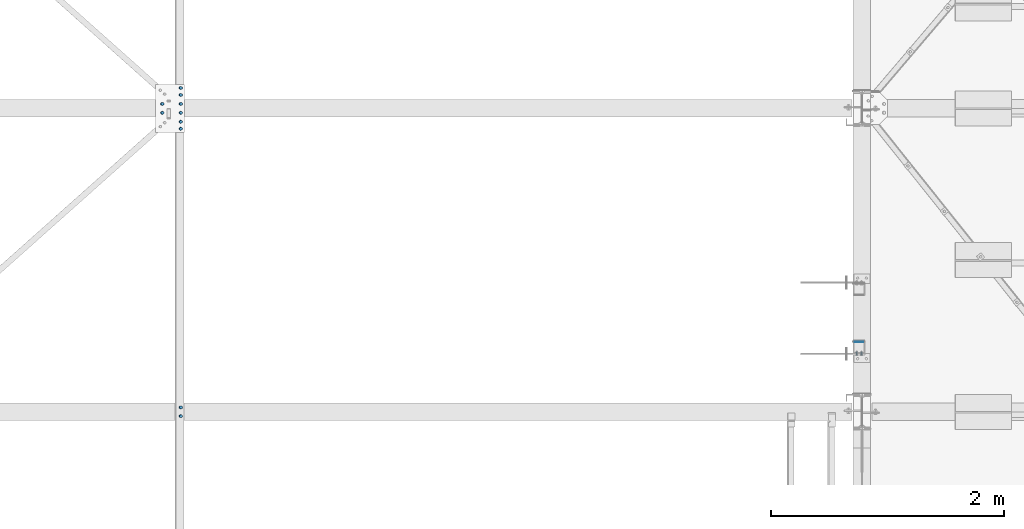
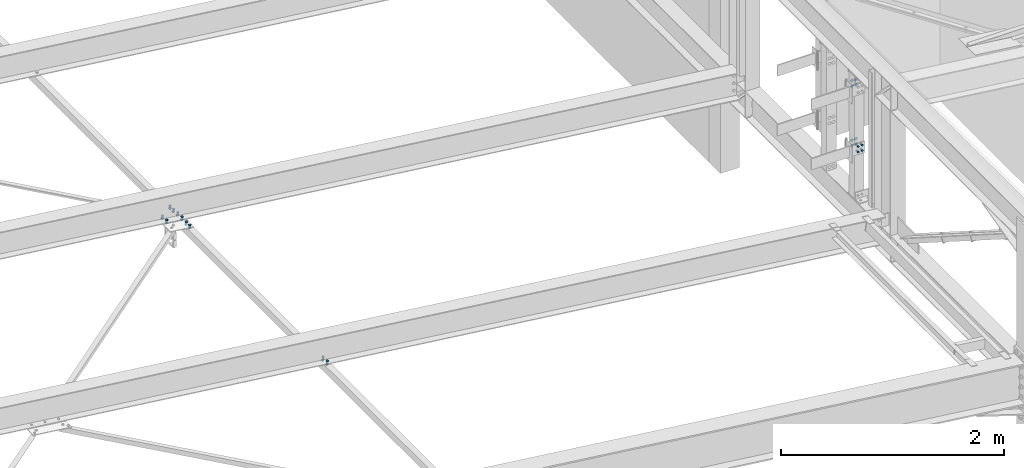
# One storey, part 371 of 3134: 7 mechanical fasteners, 4 elements without a shape of their own.
"""IFC2X3 building model written with IfcOpenShell, lengths in millimetres."""

from ifc_helpers import new_model, si_unit, frame, origin_with_axes, place, context, subcontext, project, spatial, faceted_brep, source, transform, mapped, material, type_object, element, aggregate, save


model = new_model("IFC2X3")

# Units and contexts
model_context = context("Model", 3, precision=1e-05, world=origin_with_axes())
body_context = subcontext(model_context, "Body", "Model", "MODEL_VIEW")
ifc_project = project(units=[si_unit("LENGTHUNIT", "METRE", prefix="MILLI"), si_unit("AREAUNIT", "SQUARE_METRE"), si_unit("VOLUMEUNIT", "CUBIC_METRE"), si_unit("MASSUNIT", "GRAM", prefix="KILO"), si_unit("TIMEUNIT", "SECOND"), si_unit("PLANEANGLEUNIT", "RADIAN"), si_unit("SOLIDANGLEUNIT", "STERADIAN"), si_unit("THERMODYNAMICTEMPERATUREUNIT", "DEGREE_CELSIUS"), si_unit("LUMINOUSINTENSITYUNIT", "LUMEN")], contexts=[model_context])

# Site, building, storey
site_placement = place(None, origin_with_axes())
site = spatial("IfcSite", under=ifc_project, at=site_placement, CompositionType="ELEMENT")
building_placement = place(site_placement, origin_with_axes())
building = spatial("IfcBuilding", under=site, at=building_placement, Name="Undefined", CompositionType="ELEMENT")
storey_placement = place(building_placement, origin_with_axes())
storey = spatial("IfcBuildingStorey", under=building, at=storey_placement, Name="Undefined", CompositionType="ELEMENT", Elevation=0.0)

# Assembly, mechanical fasteners
assembly_1_placement = place(storey_placement, origin_with_axes())
assembly_1 = element("IfcElementAssembly", 1, at=assembly_1_placement, inside=storey, AssemblyPlace="NOTDEFINED", PredefinedType="RIGID_FRAME")
ifc_material = material(Name="8.8")
mechanical_fastener_type = type_object("IfcMechanicalFastenerType", Name="Bolt assembly")
shared_shape_1 = source(origin_with_axes(), body_context, "Body", "Brep", [
    faceted_brep([(16.5, -4.0, 0.0), (14.289419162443, -4.0, 8.25000000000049), (8.24999999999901, -4.0, 14.2894191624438), (-1.70995436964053e-12, -4.0, 16.5), (-8.25000000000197, -4.0, 14.2894191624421), (-14.2894191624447, -4.0, 8.24999999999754), (-16.5, -4.0, -3.41990873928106e-12), (-14.2894191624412, -4.0, -8.25000000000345), (-8.24999999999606, -4.0, -14.2894191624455), (5.11154442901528e-12, -4.0, -16.5), (8.25000000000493, -4.0, -14.2894191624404), (14.2894191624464, -4.0, -8.24999999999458), (14.2894191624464, 0.1, -8.24999999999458), (8.25000000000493, 0.1, -14.2894191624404), (5.11154442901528e-12, 0.1, -16.5), (-8.24999999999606, 0.1, -14.2894191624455), (-14.2894191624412, 0.1, -8.25000000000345), (-16.5, 0.1, -3.41990873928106e-12), (-14.2894191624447, 0.1, 8.24999999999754), (-8.25000000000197, 0.1, 14.2894191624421), (-1.70995436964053e-12, 0.1, 16.5), (8.24999999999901, 0.1, 14.2894191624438), (14.289419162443, 0.1, 8.25000000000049), (16.5, 0.1, 0.0)], [[[0, 1, 2, 3, 4, 5, 6, 7, 8, 9, 10, 11]], [[12, 13, 14, 15, 16, 17, 18, 19, 20, 21, 22, 23]], [[0, 23, 22, 1]], [[1, 22, 21, 2]], [[2, 21, 20, 3]], [[3, 20, 19, 4]], [[4, 19, 18, 5]], [[5, 18, 17, 6]], [[6, 17, 16, 7]], [[7, 16, 15, 8]], [[8, 15, 14, 9]], [[9, 14, 13, 10]], [[10, 13, 12, 11]], [[11, 12, 23, 0]]]),
])
mechanical_fastener_1_placement = place(assembly_1_placement, frame((67525.0, 22650.0, 5470.0), z_axis=(1.0, 0.0, 0.0), x_axis=(0.0, 0.0, -1.0)))
mechanical_fastener_1 = element("IfcMechanicalFastener", 2, at=mechanical_fastener_1_placement, type_object=mechanical_fastener_type, material=ifc_material, Name="Bolt assembly", NominalDiameter=30.0, NominalLength=4.0, context=body_context, shape_type="MappedRepresentation", body=[
    mapped(shared_shape_1, transform((0.0, 0.0, -21.0))),
    mapped(shared_shape_1, transform((60.0, 0.0, -21.0))),
    mapped(shared_shape_1, transform((0.0, 0.0, 21.0))),
    mapped(shared_shape_1, transform((60.0, 0.0, 21.0))),
])
mechanical_fastener_2_placement = place(assembly_1_placement, frame((67525.0, 22650.0, 4820.0), z_axis=(1.0, 0.0, 0.0), x_axis=(0.0, 0.0, -1.0)))
mechanical_fastener_2 = element("IfcMechanicalFastener", 3, at=mechanical_fastener_2_placement, type_object=mechanical_fastener_type, material=ifc_material, Name="Bolt assembly", NominalDiameter=30.0, NominalLength=4.0, context=body_context, shape_type="MappedRepresentation", body=[
    mapped(shared_shape_1, transform((0.0, 0.0, -21.0))),
    mapped(shared_shape_1, transform((60.0, 0.0, -21.0))),
    mapped(shared_shape_1, transform((0.0, 0.0, 21.0))),
    mapped(shared_shape_1, transform((60.0, 0.0, 21.0))),
])
shared_shape_2 = source(origin_with_axes(), body_context, "Body", "Brep", [
    faceted_brep([(10.9696551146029, -20.0, 0.0), (5.48482755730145, -20.0, 9.5), (-5.48482755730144, -20.0, 9.5), (-10.9696551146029, -20.0, 1.34339530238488e-15), (-5.48482755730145, -20.0, -9.5), (5.48482755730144, -20.0, -9.50000000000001), (5.48482755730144, -12.0, -9.50000000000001), (-5.48482755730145, -12.0, -9.5), (-10.9696551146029, -12.0, 1.34339530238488e-15), (-5.48482755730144, -12.0, 9.5), (5.48482755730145, -12.0, 9.5), (10.9696551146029, -12.0, 0.0), (6.0, -12.0, 0.0), (5.19615242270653, -12.0, 3.00000000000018), (2.99999999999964, -12.0, 5.19615242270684), (-6.21801588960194e-13, -12.0, 6.0), (-3.00000000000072, -12.0, 5.19615242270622), (-5.19615242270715, -12.0, 2.9999999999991), (-6.0, -12.0, -1.24360317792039e-12), (-5.19615242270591, -12.0, -3.00000000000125), (-2.99999999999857, -12.0, -5.19615242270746), (1.85874342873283e-12, -12.0, -6.0), (3.00000000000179, -12.0, -5.1961524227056), (5.19615242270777, -12.0, -2.99999999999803), (5.19615242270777, 18.0, -2.99999999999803), (3.00000000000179, 18.0, -5.1961524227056), (1.85874342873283e-12, 18.0, -6.0), (-2.99999999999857, 18.0, -5.19615242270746), (-5.19615242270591, 18.0, -3.00000000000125), (-6.0, 18.0, -1.24360317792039e-12), (-5.19615242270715, 18.0, 2.9999999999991), (-3.00000000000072, 18.0, 5.19615242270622), (-6.21801588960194e-13, 18.0, 6.0), (2.99999999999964, 18.0, 5.19615242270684), (5.19615242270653, 18.0, 3.00000000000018), (6.0, 18.0, 0.0), (10.9696551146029, 4.00000000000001, 0.0), (5.48482755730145, 4.00000000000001, 9.5), (-5.48482755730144, 4.00000000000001, 9.5), (-10.9696551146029, 4.00000000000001, 1.34339530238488e-15), (-5.48482755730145, 4.00000000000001, -9.5), (5.48482755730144, 4.00000000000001, -9.50000000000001), (5.48482755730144, 14.0, -9.50000000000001), (-5.48482755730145, 14.0, -9.5), (-10.9696551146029, 14.0, 1.34339530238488e-15), (-5.48482755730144, 14.0, 9.5), (5.48482755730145, 14.0, 9.5), (10.9696551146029, 14.0, 0.0)], [[[0, 1, 2, 3, 4, 5]], [[6, 7, 8, 9, 10, 11]], [[0, 11, 10, 1]], [[1, 10, 9, 2]], [[2, 9, 8, 3]], [[3, 8, 7, 4]], [[4, 7, 6, 5]], [[5, 6, 11, 0]], [[12, 13, 14, 15, 16, 17, 18, 19, 20, 21, 22, 23]], [[24, 25, 26, 27, 28, 29, 30, 31, 32, 33, 34, 35]], [[12, 35, 34, 13]], [[13, 34, 33, 14]], [[14, 33, 32, 15]], [[15, 32, 31, 16]], [[16, 31, 30, 17]], [[17, 30, 29, 18]], [[18, 29, 28, 19]], [[19, 28, 27, 20]], [[20, 27, 26, 21]], [[21, 26, 25, 22]], [[22, 25, 24, 23]], [[23, 24, 35, 12]], [[36, 37, 38, 39, 40, 41]], [[42, 43, 44, 45, 46, 47]], [[36, 47, 46, 37]], [[37, 46, 45, 38]], [[38, 45, 44, 39]], [[39, 44, 43, 40]], [[40, 43, 42, 41]], [[41, 42, 47, 36]]]),
    faceted_brep([(7.0, -11.9, 0.0), (6.06217782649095, -11.9, 3.50000000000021), (3.49999999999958, -11.9, 6.06217782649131), (-7.25435187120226e-13, -11.9, 7.0), (-3.50000000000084, -11.9, 6.06217782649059), (-6.06217782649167, -11.9, 3.49999999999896), (-7.0, -11.9, -1.45087037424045e-12), (-6.06217782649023, -11.9, -3.50000000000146), (-3.49999999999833, -11.9, -6.06217782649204), (2.1685340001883e-12, -11.9, -7.0), (3.50000000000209, -11.9, -6.06217782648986), (6.0621778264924, -11.9, -3.4999999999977), (6.0621778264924, 0.0999999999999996, -3.4999999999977), (3.50000000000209, 0.0999999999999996, -6.06217782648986), (2.1685340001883e-12, 0.0999999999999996, -7.0), (-3.49999999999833, 0.0999999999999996, -6.06217782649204), (-6.06217782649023, 0.0999999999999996, -3.50000000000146), (-7.0, 0.0999999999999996, -1.45087037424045e-12), (-6.06217782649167, 0.0999999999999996, 3.49999999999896), (-3.50000000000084, 0.0999999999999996, 6.06217782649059), (-7.25435187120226e-13, 0.0999999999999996, 7.0), (3.49999999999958, 0.0999999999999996, 6.06217782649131), (6.06217782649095, 0.0999999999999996, 3.50000000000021), (7.0, 0.0999999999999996, 0.0), (7.0, -0.1, 0.0), (6.06217782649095, -0.1, 3.50000000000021), (3.49999999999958, -0.1, 6.06217782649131), (-7.25435187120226e-13, -0.1, 7.0), (-3.50000000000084, -0.1, 6.06217782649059), (-6.06217782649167, -0.1, 3.49999999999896), (-7.0, -0.1, -1.45087037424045e-12), (-6.06217782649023, -0.1, -3.50000000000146), (-3.49999999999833, -0.1, -6.06217782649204), (2.1685340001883e-12, -0.1, -7.0), (3.50000000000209, -0.1, -6.06217782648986), (6.0621778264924, -0.1, -3.4999999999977), (6.0621778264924, 4.00000000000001, -3.4999999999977), (3.50000000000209, 4.00000000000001, -6.06217782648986), (2.1685340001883e-12, 4.00000000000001, -7.0), (-3.49999999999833, 4.00000000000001, -6.06217782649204), (-6.06217782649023, 4.00000000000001, -3.50000000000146), (-7.0, 4.00000000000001, -1.45087037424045e-12), (-6.06217782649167, 4.00000000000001, 3.49999999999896), (-3.50000000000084, 4.00000000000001, 6.06217782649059), (-7.25435187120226e-13, 4.00000000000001, 7.0), (3.49999999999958, 4.00000000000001, 6.06217782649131), (6.06217782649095, 4.00000000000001, 3.50000000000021), (7.0, 4.00000000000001, 0.0)], [[[0, 1, 2, 3, 4, 5, 6, 7, 8, 9, 10, 11]], [[12, 13, 14, 15, 16, 17, 18, 19, 20, 21, 22, 23]], [[0, 23, 22, 1]], [[1, 22, 21, 2]], [[2, 21, 20, 3]], [[3, 20, 19, 4]], [[4, 19, 18, 5]], [[5, 18, 17, 6]], [[6, 17, 16, 7]], [[7, 16, 15, 8]], [[8, 15, 14, 9]], [[9, 14, 13, 10]], [[10, 13, 12, 11]], [[11, 12, 23, 0]], [[24, 25, 26, 27, 28, 29, 30, 31, 32, 33, 34, 35]], [[36, 37, 38, 39, 40, 41, 42, 43, 44, 45, 46, 47]], [[24, 47, 46, 25]], [[25, 46, 45, 26]], [[26, 45, 44, 27]], [[27, 44, 43, 28]], [[28, 43, 42, 29]], [[29, 42, 41, 30]], [[30, 41, 40, 31]], [[31, 40, 39, 32]], [[32, 39, 38, 33]], [[33, 38, 37, 34]], [[34, 37, 36, 35]], [[35, 36, 47, 24]]]),
])
mechanical_fastener_3_placement = place(assembly_1_placement, frame((67525.0, 22550.0, 4820.0), z_axis=(1.0, 0.0, 0.0), x_axis=(0.0, 0.0, -1.0)))
mechanical_fastener_3 = element("IfcMechanicalFastener", 4, at=mechanical_fastener_3_placement, type_object=mechanical_fastener_type, material=ifc_material, Name="Bolt assembly", NominalDiameter=12.0, NominalLength=30.0, context=body_context, shape_type="MappedRepresentation", body=[
    mapped(shared_shape_2, transform((0.0, 0.0, -21.0))),
    mapped(shared_shape_2, transform((60.0, 0.0, -21.0))),
    mapped(shared_shape_2, transform((0.0, 0.0, 21.0))),
    mapped(shared_shape_2, transform((60.0, 0.0, 21.0))),
])
aggregate(assembly_1, [mechanical_fastener_1, mechanical_fastener_2, mechanical_fastener_3])

# Assembly, mechanical fastener
assembly_2_placement = place(storey_placement, origin_with_axes())
assembly_2 = element("IfcElementAssembly", 5, at=assembly_2_placement, inside=storey, Name="300", AssemblyPlace="NOTDEFINED", PredefinedType="RIGID_FRAME")
shared_shape_3 = source(origin_with_axes(), body_context, "Body", "Brep", [
    faceted_brep([(13.856406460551, -19.199990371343, 0.0), (6.92820323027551, -19.199990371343, 12.0), (-6.92820323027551, -19.199990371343, 12.0), (-13.856406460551, -19.199990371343, 1.69692038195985e-15), (-6.92820323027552, -19.199990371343, -12.0), (6.9282032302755, -19.199990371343, -12.0), (6.9282032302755, -9.19999037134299, -12.0), (-6.92820323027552, -9.19999037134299, -12.0), (-13.856406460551, -9.19999037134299, 1.69692038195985e-15), (-6.92820323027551, -9.19999037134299, 12.0), (6.92820323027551, -9.19999037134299, 12.0), (13.856406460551, -9.19999037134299, 0.0), (8.0, -9.19999037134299, 0.0), (6.92820323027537, -9.19999037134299, 4.00000000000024), (3.99999999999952, -9.19999037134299, 6.92820323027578), (-8.29068785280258e-13, -9.19999037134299, 8.0), (-4.00000000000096, -9.19999037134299, 6.92820323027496), (-6.9282032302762, -9.19999037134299, 3.99999999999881), (-8.0, -9.19999037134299, -1.65813757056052e-12), (-6.92820323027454, -9.19999037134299, -4.00000000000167), (-3.99999999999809, -9.19999037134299, -6.92820323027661), (2.47832457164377e-12, -9.19999037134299, -8.0), (4.00000000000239, -9.19999037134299, -6.92820323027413), (6.92820323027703, -9.19999037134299, -3.99999999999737), (6.92820323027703, 25.800009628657, -3.99999999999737), (4.00000000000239, 25.800009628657, -6.92820323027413), (2.47832457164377e-12, 25.800009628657, -8.0), (-3.99999999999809, 25.800009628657, -6.92820323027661), (-6.92820323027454, 25.800009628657, -4.00000000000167), (-8.0, 25.800009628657, -1.65813757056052e-12), (-6.9282032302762, 25.800009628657, 3.99999999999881), (-4.00000000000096, 25.800009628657, 6.92820323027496), (-8.29068785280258e-13, 25.800009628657, 8.0), (3.99999999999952, 25.800009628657, 6.92820323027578), (6.92820323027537, 25.800009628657, 4.00000000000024), (8.0, 25.800009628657, 0.0), (13.856406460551, 8.00000637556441, 0.0), (6.92820323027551, 8.00000637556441, 12.0), (-6.92820323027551, 8.00000637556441, 12.0), (-13.856406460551, 8.00000637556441, 1.69692038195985e-15), (-6.92820323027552, 8.00000637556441, -12.0), (6.9282032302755, 8.00000637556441, -12.0), (6.9282032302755, 21.0000063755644, -12.0), (-6.92820323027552, 21.0000063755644, -12.0), (-13.856406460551, 21.0000063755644, 1.69692038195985e-15), (-6.92820323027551, 21.0000063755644, 12.0), (6.92820323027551, 21.0000063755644, 12.0), (13.856406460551, 21.0000063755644, 0.0)], [[[0, 1, 2, 3, 4, 5]], [[6, 7, 8, 9, 10, 11]], [[0, 11, 10, 1]], [[1, 10, 9, 2]], [[2, 9, 8, 3]], [[3, 8, 7, 4]], [[4, 7, 6, 5]], [[5, 6, 11, 0]], [[12, 13, 14, 15, 16, 17, 18, 19, 20, 21, 22, 23]], [[24, 25, 26, 27, 28, 29, 30, 31, 32, 33, 34, 35]], [[12, 35, 34, 13]], [[13, 34, 33, 14]], [[14, 33, 32, 15]], [[15, 32, 31, 16]], [[16, 31, 30, 17]], [[17, 30, 29, 18]], [[18, 29, 28, 19]], [[19, 28, 27, 20]], [[20, 27, 26, 21]], [[21, 26, 25, 22]], [[22, 25, 24, 23]], [[23, 24, 35, 12]], [[36, 37, 38, 39, 40, 41]], [[42, 43, 44, 45, 46, 47]], [[36, 47, 46, 37]], [[37, 46, 45, 38]], [[38, 45, 44, 39]], [[39, 44, 43, 40]], [[40, 43, 42, 41]], [[41, 42, 47, 36]]]),
    faceted_brep([(9.0, -0.1, 0.0), (7.79422863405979, -0.1, 4.50000000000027), (4.49999999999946, -0.1, 7.79422863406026), (-9.3270238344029e-13, -0.1, 9.0), (-4.50000000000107, -0.1, 7.79422863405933), (-7.79422863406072, -0.1, 4.49999999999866), (-9.0, -0.1, -1.86540476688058e-12), (-7.79422863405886, -0.1, -4.50000000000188), (-4.49999999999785, -0.1, -7.79422863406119), (2.78811514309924e-12, -0.1, -9.0), (4.50000000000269, -0.1, -7.7942286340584), (7.79422863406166, -0.1, -4.49999999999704), (7.79422863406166, 8.00000000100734, -4.49999999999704), (4.50000000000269, 8.00000000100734, -7.7942286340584), (2.78811514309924e-12, 8.00000000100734, -9.0), (-4.49999999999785, 8.00000000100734, -7.79422863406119), (-7.79422863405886, 8.00000000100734, -4.50000000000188), (-9.0, 8.00000000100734, -1.86540476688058e-12), (-7.79422863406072, 8.00000000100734, 4.49999999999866), (-4.50000000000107, 8.00000000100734, 7.79422863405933), (-9.3270238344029e-13, 8.00000000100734, 9.0), (4.49999999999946, 8.00000000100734, 7.79422863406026), (7.79422863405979, 8.00000000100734, 4.50000000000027), (9.0, 8.00000000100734, 0.0), (9.0, -9.09999037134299, 0.0), (7.79422863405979, -9.09999037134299, 4.50000000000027), (4.49999999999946, -9.09999037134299, 7.79422863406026), (-9.3270238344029e-13, -9.09999037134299, 9.0), (-4.50000000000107, -9.09999037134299, 7.79422863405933), (-7.79422863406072, -9.09999037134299, 4.49999999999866), (-9.0, -9.09999037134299, -1.86540476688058e-12), (-7.79422863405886, -9.09999037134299, -4.50000000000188), (-4.49999999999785, -9.09999037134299, -7.79422863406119), (2.78811514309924e-12, -9.09999037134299, -9.0), (4.50000000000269, -9.09999037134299, -7.7942286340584), (7.79422863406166, -9.09999037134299, -4.49999999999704), (7.79422863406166, 0.100000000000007, -4.49999999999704), (4.50000000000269, 0.100000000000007, -7.7942286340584), (2.78811514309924e-12, 0.100000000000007, -9.0), (-4.49999999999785, 0.100000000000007, -7.79422863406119), (-7.79422863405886, 0.100000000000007, -4.50000000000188), (-9.0, 0.100000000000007, -1.86540476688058e-12), (-7.79422863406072, 0.100000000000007, 4.49999999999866), (-4.50000000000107, 0.100000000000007, 7.79422863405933), (-9.3270238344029e-13, 0.100000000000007, 9.0), (4.49999999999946, 0.100000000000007, 7.79422863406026), (7.79422863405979, 0.100000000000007, 4.50000000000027), (9.0, 0.100000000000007, 0.0)], [[[0, 1, 2, 3, 4, 5, 6, 7, 8, 9, 10, 11]], [[12, 13, 14, 15, 16, 17, 18, 19, 20, 21, 22, 23]], [[0, 23, 22, 1]], [[1, 22, 21, 2]], [[2, 21, 20, 3]], [[3, 20, 19, 4]], [[4, 19, 18, 5]], [[5, 18, 17, 6]], [[6, 17, 16, 7]], [[7, 16, 15, 8]], [[8, 15, 14, 9]], [[9, 14, 13, 10]], [[10, 13, 12, 11]], [[11, 12, 23, 0]], [[24, 25, 26, 27, 28, 29, 30, 31, 32, 33, 34, 35]], [[36, 37, 38, 39, 40, 41, 42, 43, 44, 45, 46, 47]], [[24, 47, 46, 25]], [[25, 46, 45, 26]], [[26, 45, 44, 27]], [[27, 44, 43, 28]], [[28, 43, 42, 29]], [[29, 42, 41, 30]], [[30, 41, 40, 31]], [[31, 40, 39, 32]], [[32, 39, 38, 33]], [[33, 38, 37, 34]], [[34, 37, 36, 35]], [[35, 36, 47, 24]]]),
])
mechanical_fastener_4_placement = place(assembly_2_placement, frame((61633.5751064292, 24612.0, 4816.43281405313), z_axis=(-0.992623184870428, 0.0, 0.121240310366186), x_axis=(0.0, 1.0, 0.0)))
mechanical_fastener_4 = element("IfcMechanicalFastener", 6, at=mechanical_fastener_4_placement, type_object=mechanical_fastener_type, material=ifc_material, Name="Bolt assembly", NominalDiameter=16.0, NominalLength=35.0, context=body_context, shape_type="MappedRepresentation", body=[
    mapped(shared_shape_3, transform((0.0, -5.32963895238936e-10, -79.9999999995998))),
    mapped(shared_shape_3, transform((76.0, -5.32963895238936e-10, -79.9999999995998))),
    mapped(shared_shape_3, transform((0.0, 5.3114490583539e-10, 79.9999999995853))),
    mapped(shared_shape_3, transform((76.0, 5.3114490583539e-10, 79.9999999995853))),
])
aggregate(assembly_2, [mechanical_fastener_4])

assembly_3_placement = place(storey_placement, origin_with_axes())
assembly_3 = element("IfcElementAssembly", 7, at=assembly_3_placement, inside=storey, AssemblyPlace="NOTDEFINED", PredefinedType="RIGID_FRAME")
shared_shape_4 = source(origin_with_axes(), body_context, "Body", "Brep", [
    faceted_brep([(13.856406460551, -19.199990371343, 0.0), (6.92820323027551, -19.199990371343, 12.0), (-6.92820323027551, -19.199990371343, 12.0), (-13.856406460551, -19.199990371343, 1.69692038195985e-15), (-6.92820323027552, -19.199990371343, -12.0), (6.9282032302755, -19.199990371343, -12.0), (6.9282032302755, -9.19999037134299, -12.0), (-6.92820323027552, -9.19999037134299, -12.0), (-13.856406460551, -9.19999037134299, 1.69692038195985e-15), (-6.92820323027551, -9.19999037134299, 12.0), (6.92820323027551, -9.19999037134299, 12.0), (13.856406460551, -9.19999037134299, 0.0), (8.0, -9.19999037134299, 0.0), (6.92820323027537, -9.19999037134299, 4.00000000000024), (3.99999999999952, -9.19999037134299, 6.92820323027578), (-8.29068785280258e-13, -9.19999037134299, 8.0), (-4.00000000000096, -9.19999037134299, 6.92820323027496), (-6.9282032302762, -9.19999037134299, 3.99999999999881), (-8.0, -9.19999037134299, -1.65813757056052e-12), (-6.92820323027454, -9.19999037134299, -4.00000000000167), (-3.99999999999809, -9.19999037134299, -6.92820323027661), (2.47832457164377e-12, -9.19999037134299, -8.0), (4.00000000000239, -9.19999037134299, -6.92820323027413), (6.92820323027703, -9.19999037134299, -3.99999999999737), (6.92820323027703, 35.8000002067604, -3.99999999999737), (4.00000000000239, 35.8000002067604, -6.92820323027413), (2.47832457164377e-12, 35.8000002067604, -8.0), (-3.99999999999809, 35.8000002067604, -6.92820323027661), (-6.92820323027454, 35.8000002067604, -4.00000000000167), (-8.0, 35.8000002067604, -1.65813757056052e-12), (-6.9282032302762, 35.8000002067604, 3.99999999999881), (-4.00000000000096, 35.8000002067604, 6.92820323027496), (-8.29068785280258e-13, 35.8000002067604, 8.0), (3.99999999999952, 35.8000002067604, 6.92820323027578), (6.92820323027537, 35.8000002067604, 4.00000000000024), (8.0, 35.8000002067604, 0.0), (13.856406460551, 14.9999995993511, 0.0), (6.92820323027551, 14.9999995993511, 12.0), (-6.92820323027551, 14.9999995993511, 12.0), (-13.856406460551, 14.9999995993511, 1.69692038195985e-15), (-6.92820323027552, 14.9999995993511, -12.0), (6.9282032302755, 14.9999995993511, -12.0), (6.9282032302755, 27.9999995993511, -12.0), (-6.92820323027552, 27.9999995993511, -12.0), (-13.856406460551, 27.9999995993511, 1.69692038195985e-15), (-6.92820323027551, 27.9999995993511, 12.0), (6.92820323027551, 27.9999995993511, 12.0), (13.856406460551, 27.9999995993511, 0.0)], [[[0, 1, 2, 3, 4, 5]], [[6, 7, 8, 9, 10, 11]], [[0, 11, 10, 1]], [[1, 10, 9, 2]], [[2, 9, 8, 3]], [[3, 8, 7, 4]], [[4, 7, 6, 5]], [[5, 6, 11, 0]], [[12, 13, 14, 15, 16, 17, 18, 19, 20, 21, 22, 23]], [[24, 25, 26, 27, 28, 29, 30, 31, 32, 33, 34, 35]], [[12, 35, 34, 13]], [[13, 34, 33, 14]], [[14, 33, 32, 15]], [[15, 32, 31, 16]], [[16, 31, 30, 17]], [[17, 30, 29, 18]], [[18, 29, 28, 19]], [[19, 28, 27, 20]], [[20, 27, 26, 21]], [[21, 26, 25, 22]], [[22, 25, 24, 23]], [[23, 24, 35, 12]], [[36, 37, 38, 39, 40, 41]], [[42, 43, 44, 45, 46, 47]], [[36, 47, 46, 37]], [[37, 46, 45, 38]], [[38, 45, 44, 39]], [[39, 44, 43, 40]], [[40, 43, 42, 41]], [[41, 42, 47, 36]]]),
    faceted_brep([(9.0, -9.09999037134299, 0.0), (7.79422863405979, -9.09999037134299, 4.50000000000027), (4.49999999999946, -9.09999037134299, 7.79422863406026), (-9.3270238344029e-13, -9.09999037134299, 9.0), (-4.50000000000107, -9.09999037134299, 7.79422863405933), (-7.79422863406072, -9.09999037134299, 4.49999999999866), (-9.0, -9.09999037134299, -1.86540476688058e-12), (-7.79422863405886, -9.09999037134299, -4.50000000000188), (-4.49999999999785, -9.09999037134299, -7.79422863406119), (2.78811514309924e-12, -9.09999037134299, -9.0), (4.50000000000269, -9.09999037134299, -7.7942286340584), (7.79422863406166, -9.09999037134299, -4.49999999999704), (7.79422863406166, 0.100000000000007, -4.49999999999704), (4.50000000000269, 0.100000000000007, -7.7942286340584), (2.78811514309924e-12, 0.100000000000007, -9.0), (-4.49999999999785, 0.100000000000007, -7.79422863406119), (-7.79422863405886, 0.100000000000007, -4.50000000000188), (-9.0, 0.100000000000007, -1.86540476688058e-12), (-7.79422863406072, 0.100000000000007, 4.49999999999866), (-4.50000000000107, 0.100000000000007, 7.79422863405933), (-9.3270238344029e-13, 0.100000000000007, 9.0), (4.49999999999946, 0.100000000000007, 7.79422863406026), (7.79422863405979, 0.100000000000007, 4.50000000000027), (9.0, 0.100000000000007, 0.0), (9.0, 7.9, 0.0), (7.79422863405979, 7.9, 4.50000000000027), (4.49999999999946, 7.9, 7.79422863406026), (-9.3270238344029e-13, 7.9, 9.0), (-4.50000000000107, 7.9, 7.79422863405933), (-7.79422863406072, 7.9, 4.49999999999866), (-9.0, 7.9, -1.86540476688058e-12), (-7.79422863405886, 7.9, -4.50000000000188), (-4.49999999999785, 7.9, -7.79422863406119), (2.78811514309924e-12, 7.9, -9.0), (4.50000000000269, 7.9, -7.7942286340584), (7.79422863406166, 7.9, -4.49999999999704), (7.79422863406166, 14.9999995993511, -4.49999999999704), (4.50000000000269, 14.9999995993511, -7.7942286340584), (2.78811514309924e-12, 14.9999995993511, -9.0), (-4.49999999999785, 14.9999995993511, -7.79422863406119), (-7.79422863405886, 14.9999995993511, -4.50000000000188), (-9.0, 14.9999995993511, -1.86540476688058e-12), (-7.79422863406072, 14.9999995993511, 4.49999999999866), (-4.50000000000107, 14.9999995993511, 7.79422863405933), (-9.3270238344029e-13, 14.9999995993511, 9.0), (4.49999999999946, 14.9999995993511, 7.79422863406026), (7.79422863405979, 14.9999995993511, 4.50000000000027), (9.0, 14.9999995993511, 0.0)], [[[0, 1, 2, 3, 4, 5, 6, 7, 8, 9, 10, 11]], [[12, 13, 14, 15, 16, 17, 18, 19, 20, 21, 22, 23]], [[0, 23, 22, 1]], [[1, 22, 21, 2]], [[2, 21, 20, 3]], [[3, 20, 19, 4]], [[4, 19, 18, 5]], [[5, 18, 17, 6]], [[6, 17, 16, 7]], [[7, 16, 15, 8]], [[8, 15, 14, 9]], [[9, 14, 13, 10]], [[10, 13, 12, 11]], [[11, 12, 23, 0]], [[24, 25, 26, 27, 28, 29, 30, 31, 32, 33, 34, 35]], [[36, 37, 38, 39, 40, 41, 42, 43, 44, 45, 46, 47]], [[24, 47, 46, 25]], [[25, 46, 45, 26]], [[26, 45, 44, 27]], [[27, 44, 43, 28]], [[28, 43, 42, 29]], [[29, 42, 41, 30]], [[30, 41, 40, 31]], [[31, 40, 39, 32]], [[32, 39, 38, 33]], [[33, 38, 37, 34]], [[34, 37, 36, 35]], [[35, 36, 47, 24]]]),
])
mechanical_fastener_5_placement = place(assembly_3_placement, frame((61712.9849612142, 22012.0, 4806.73358922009), z_axis=(-0.992623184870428, 0.0, 0.121240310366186), x_axis=(0.0, 1.0, 0.0)))
mechanical_fastener_5 = element("IfcMechanicalFastener", 8, at=mechanical_fastener_5_placement, type_object=mechanical_fastener_type, material=ifc_material, Name="Bolt assembly", NominalDiameter=16.0, NominalLength=45.0, context=body_context, shape_type="MappedRepresentation", body=[
    mapped(shared_shape_4, transform((0.0, 0.0, 0.0))),
    mapped(shared_shape_4, transform((76.0, 0.0, 0.0))),
])
aggregate(assembly_3, [mechanical_fastener_5])

# Assembly, mechanical fasteners
assembly_4_placement = place(storey_placement, origin_with_axes())
assembly_4 = element("IfcElementAssembly", 9, at=assembly_4_placement, inside=storey, Name="PL8", AssemblyPlace="NOTDEFINED", PredefinedType="RIGID_FRAME")
shared_shape_5 = source(origin_with_axes(), body_context, "Body", "Brep", [
    faceted_brep([(13.856406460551, -10.0, 0.0), (6.92820323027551, -10.0, 12.0), (-6.92820323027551, -10.0, 12.0), (-13.856406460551, -10.0, 1.69692038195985e-15), (-6.92820323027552, -10.0, -12.0), (6.9282032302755, -10.0, -12.0), (6.9282032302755, 0.0, -12.0), (-6.92820323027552, 0.0, -12.0), (-13.856406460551, 0.0, 1.69692038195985e-15), (-6.92820323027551, 0.0, 12.0), (6.92820323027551, 0.0, 12.0), (13.856406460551, 0.0, 0.0), (8.0, 0.0, 0.0), (6.92820323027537, 0.0, 4.00000000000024), (3.99999999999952, 0.0, 6.92820323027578), (-8.29068785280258e-13, 0.0, 8.0), (-4.00000000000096, 0.0, 6.92820323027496), (-6.9282032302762, 0.0, 3.99999999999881), (-8.0, 0.0, -1.65813757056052e-12), (-6.92820323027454, 0.0, -4.00000000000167), (-3.99999999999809, 0.0, -6.92820323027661), (2.47832457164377e-12, 0.0, -8.0), (4.00000000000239, 0.0, -6.92820323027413), (6.92820323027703, 0.0, -3.99999999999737), (6.92820323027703, 35.0000000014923, -3.99999999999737), (4.00000000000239, 35.0000000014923, -6.92820323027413), (2.47832457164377e-12, 35.0000000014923, -8.0), (-3.99999999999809, 35.0000000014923, -6.92820323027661), (-6.92820323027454, 35.0000000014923, -4.00000000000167), (-8.0, 35.0000000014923, -1.65813757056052e-12), (-6.9282032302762, 35.0000000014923, 3.99999999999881), (-4.00000000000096, 35.0000000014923, 6.92820323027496), (-8.29068785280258e-13, 35.0000000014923, 8.0), (3.99999999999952, 35.0000000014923, 6.92820323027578), (6.92820323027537, 35.0000000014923, 4.00000000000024), (8.0, 35.0000000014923, 0.0), (13.856406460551, 14.9999995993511, 0.0), (6.92820323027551, 14.9999995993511, 12.0), (-6.92820323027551, 14.9999995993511, 12.0), (-13.856406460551, 14.9999995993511, 1.69692038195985e-15), (-6.92820323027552, 14.9999995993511, -12.0), (6.9282032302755, 14.9999995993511, -12.0), (6.9282032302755, 27.9999995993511, -12.0), (-6.92820323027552, 27.9999995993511, -12.0), (-13.856406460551, 27.9999995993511, 1.69692038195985e-15), (-6.92820323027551, 27.9999995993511, 12.0), (6.92820323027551, 27.9999995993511, 12.0), (13.856406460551, 27.9999995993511, 0.0)], [[[0, 1, 2, 3, 4, 5]], [[6, 7, 8, 9, 10, 11]], [[0, 11, 10, 1]], [[1, 10, 9, 2]], [[2, 9, 8, 3]], [[3, 8, 7, 4]], [[4, 7, 6, 5]], [[5, 6, 11, 0]], [[12, 13, 14, 15, 16, 17, 18, 19, 20, 21, 22, 23]], [[24, 25, 26, 27, 28, 29, 30, 31, 32, 33, 34, 35]], [[12, 35, 34, 13]], [[13, 34, 33, 14]], [[14, 33, 32, 15]], [[15, 32, 31, 16]], [[16, 31, 30, 17]], [[17, 30, 29, 18]], [[18, 29, 28, 19]], [[19, 28, 27, 20]], [[20, 27, 26, 21]], [[21, 26, 25, 22]], [[22, 25, 24, 23]], [[23, 24, 35, 12]], [[36, 37, 38, 39, 40, 41]], [[42, 43, 44, 45, 46, 47]], [[36, 47, 46, 37]], [[37, 46, 45, 38]], [[38, 45, 44, 39]], [[39, 44, 43, 40]], [[40, 43, 42, 41]], [[41, 42, 47, 36]]]),
    faceted_brep([(9.0, 7.9, 0.0), (7.79422863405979, 7.9, 4.50000000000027), (4.49999999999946, 7.9, 7.79422863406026), (-9.3270238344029e-13, 7.9, 9.0), (-4.50000000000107, 7.9, 7.79422863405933), (-7.79422863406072, 7.9, 4.49999999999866), (-9.0, 7.9, -1.86540476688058e-12), (-7.79422863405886, 7.9, -4.50000000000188), (-4.49999999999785, 7.9, -7.79422863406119), (2.78811514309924e-12, 7.9, -9.0), (4.50000000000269, 7.9, -7.7942286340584), (7.79422863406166, 7.9, -4.49999999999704), (7.79422863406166, 14.9999995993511, -4.49999999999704), (4.50000000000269, 14.9999995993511, -7.7942286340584), (2.78811514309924e-12, 14.9999995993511, -9.0), (-4.49999999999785, 14.9999995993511, -7.79422863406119), (-7.79422863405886, 14.9999995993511, -4.50000000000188), (-9.0, 14.9999995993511, -1.86540476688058e-12), (-7.79422863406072, 14.9999995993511, 4.49999999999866), (-4.50000000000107, 14.9999995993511, 7.79422863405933), (-9.3270238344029e-13, 14.9999995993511, 9.0), (4.49999999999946, 14.9999995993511, 7.79422863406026), (7.79422863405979, 14.9999995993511, 4.50000000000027), (9.0, 14.9999995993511, 0.0), (9.0, 0.100000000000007, 0.0), (7.79422863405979, 0.100000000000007, 4.50000000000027), (4.49999999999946, 0.100000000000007, 7.79422863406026), (-9.3270238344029e-13, 0.100000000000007, 9.0), (-4.50000000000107, 0.100000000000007, 7.79422863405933), (-7.79422863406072, 0.100000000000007, 4.49999999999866), (-9.0, 0.100000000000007, -1.86540476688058e-12), (-7.79422863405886, 0.100000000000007, -4.50000000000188), (-4.49999999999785, 0.100000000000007, -7.79422863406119), (2.78811514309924e-12, 0.100000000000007, -9.0), (4.50000000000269, 0.100000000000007, -7.7942286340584), (7.79422863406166, 0.100000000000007, -4.49999999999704), (7.79422863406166, 8.1, -4.49999999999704), (4.50000000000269, 8.1, -7.7942286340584), (2.78811514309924e-12, 8.1, -9.0), (-4.49999999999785, 8.1, -7.79422863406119), (-7.79422863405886, 8.1, -4.50000000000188), (-9.0, 8.1, -1.86540476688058e-12), (-7.79422863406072, 8.1, 4.49999999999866), (-4.50000000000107, 8.1, 7.79422863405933), (-9.3270238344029e-13, 8.1, 9.0), (4.49999999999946, 8.1, 7.79422863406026), (7.79422863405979, 8.1, 4.50000000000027), (9.0, 8.1, 0.0)], [[[0, 1, 2, 3, 4, 5, 6, 7, 8, 9, 10, 11]], [[12, 13, 14, 15, 16, 17, 18, 19, 20, 21, 22, 23]], [[0, 23, 22, 1]], [[1, 22, 21, 2]], [[2, 21, 20, 3]], [[3, 20, 19, 4]], [[4, 19, 18, 5]], [[5, 18, 17, 6]], [[6, 17, 16, 7]], [[7, 16, 15, 8]], [[8, 15, 14, 9]], [[9, 14, 13, 10]], [[10, 13, 12, 11]], [[11, 12, 23, 0]], [[24, 25, 26, 27, 28, 29, 30, 31, 32, 33, 34, 35]], [[36, 37, 38, 39, 40, 41, 42, 43, 44, 45, 46, 47]], [[24, 47, 46, 25]], [[25, 46, 45, 26]], [[26, 45, 44, 27]], [[27, 44, 43, 28]], [[28, 43, 42, 29]], [[29, 42, 41, 30]], [[30, 41, 40, 31]], [[31, 40, 39, 32]], [[32, 39, 38, 33]], [[33, 38, 37, 34]], [[34, 37, 36, 35]], [[35, 36, 47, 24]]]),
])
mechanical_fastener_6_placement = place(assembly_4_placement, frame((61712.9849612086, 24825.0, 4806.73358922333), z_axis=(0.992623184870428, 0.0, -0.121240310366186), x_axis=(0.0, -1.0, 0.0)))
mechanical_fastener_6 = element("IfcMechanicalFastener", 10, at=mechanical_fastener_6_placement, type_object=mechanical_fastener_type, material=ifc_material, Name="Bolt assembly", NominalDiameter=16.0, NominalLength=35.0, context=body_context, shape_type="MappedRepresentation", body=[
    mapped(shared_shape_5, transform((0.0, 0.0, 0.0))),
    mapped(shared_shape_5, transform((59.9999999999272, 0.0, 5.40239852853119e-10))),
])
mechanical_fastener_7_placement = place(assembly_4_placement, frame((61712.9849612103, 24535.0, 4806.73358922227), z_axis=(0.992623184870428, 0.0, -0.121240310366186), x_axis=(0.0, -1.0, 0.0)))
mechanical_fastener_7 = element("IfcMechanicalFastener", 11, at=mechanical_fastener_7_placement, type_object=mechanical_fastener_type, material=ifc_material, Name="Bolt assembly", NominalDiameter=16.0, NominalLength=35.0, context=body_context, shape_type="MappedRepresentation", body=[
    mapped(shared_shape_5, transform((0.0, 0.0, 0.0))),
    mapped(shared_shape_5, transform((59.9999999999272, 0.0, 5.40239852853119e-10))),
])
aggregate(assembly_4, [mechanical_fastener_6, mechanical_fastener_7])

save(model, "model.ifc")
